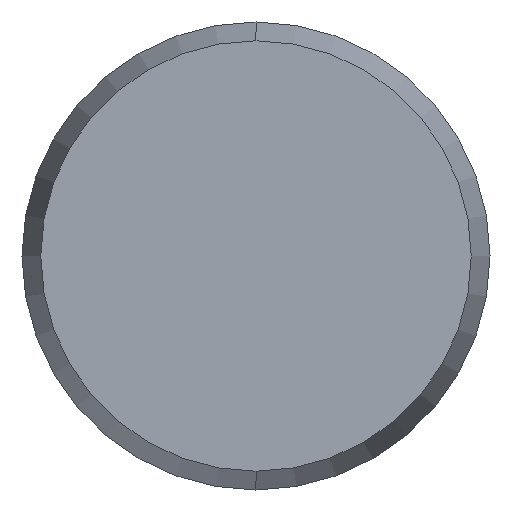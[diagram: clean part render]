
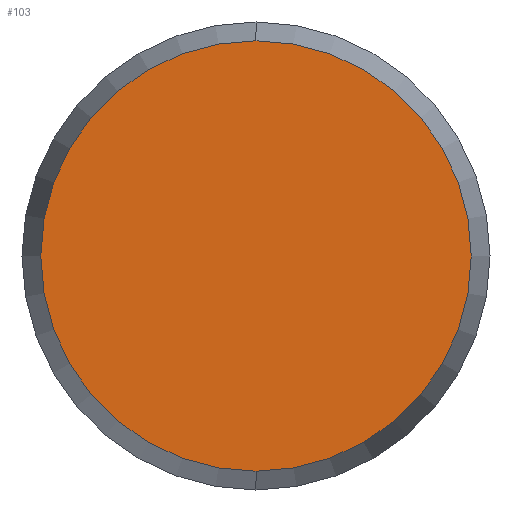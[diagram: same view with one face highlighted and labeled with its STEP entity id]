
A CAD part, left-side view. The second image highlights one B-rep face of the part: STEP entity #103.
In plain terms, the highlighted planar face has unit normal (-1, 0, 0).
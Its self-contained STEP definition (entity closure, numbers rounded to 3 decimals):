
#50 = DIRECTION ( 'NONE',  ( 0., 0., -1. ) ) ;
#51 = DIRECTION ( 'NONE',  ( 1., 0., 0. ) ) ;
#52 = CARTESIAN_POINT ( 'NONE',  ( -5., 0., 0. ) ) ;
#53 = AXIS2_PLACEMENT_3D ( 'NONE', #52, #51, #50 ) ;
#54 = CIRCLE ( 'NONE', #53, 3.678 ) ;
#77 = CARTESIAN_POINT ( 'NONE',  ( -5., 0., -3.678 ) ) ;
#78 = CARTESIAN_POINT ( 'NONE',  ( -5., 0., 3.678 ) ) ;
#79 = DIRECTION ( 'NONE',  ( 0., 0., -1. ) ) ;
#80 = DIRECTION ( 'NONE',  ( 1., 0., 0. ) ) ;
#81 = CARTESIAN_POINT ( 'NONE',  ( -5., 0., 0. ) ) ;
#82 = AXIS2_PLACEMENT_3D ( 'NONE', #81, #80, #79 ) ;
#86 = CIRCLE ( 'NONE', #82, 3.678 ) ;
#102 = ORIENTED_EDGE ( 'NONE', *, *, #204, .F. ) ;
#103 = ADVANCED_FACE ( 'NONE', ( #183 ), #182, .F. ) ;
#104 = EDGE_LOOP ( 'NONE', ( #102, #199 ) ) ;
#174 = DIRECTION ( 'NONE',  ( 0., 0., -1. ) ) ;
#175 = DIRECTION ( 'NONE',  ( 1., 0., 0. ) ) ;
#177 = CARTESIAN_POINT ( 'NONE',  ( -5., 0., 0. ) ) ;
#178 = AXIS2_PLACEMENT_3D ( 'NONE', #177, #175, #174 ) ;
#182 = PLANE ( 'NONE',  #178 ) ;
#183 = FACE_OUTER_BOUND ( 'NONE', #104, .T. ) ;
#199 = ORIENTED_EDGE ( 'NONE', *, *, #223, .F. ) ;
#204 = EDGE_CURVE ( 'NONE', #205, #206, #86, .T. ) ;
#205 = VERTEX_POINT ( 'NONE', #78 ) ;
#206 = VERTEX_POINT ( 'NONE', #77 ) ;
#223 = EDGE_CURVE ( 'NONE', #206, #205, #54, .T. ) ;
